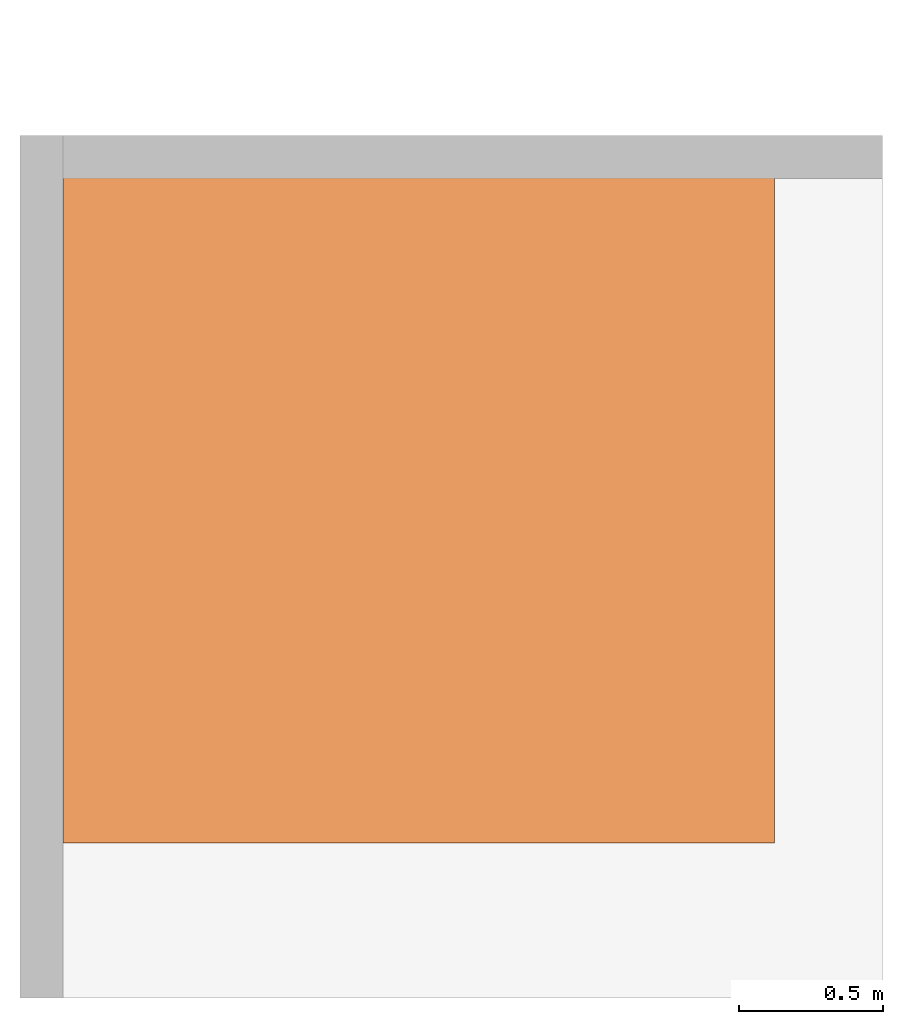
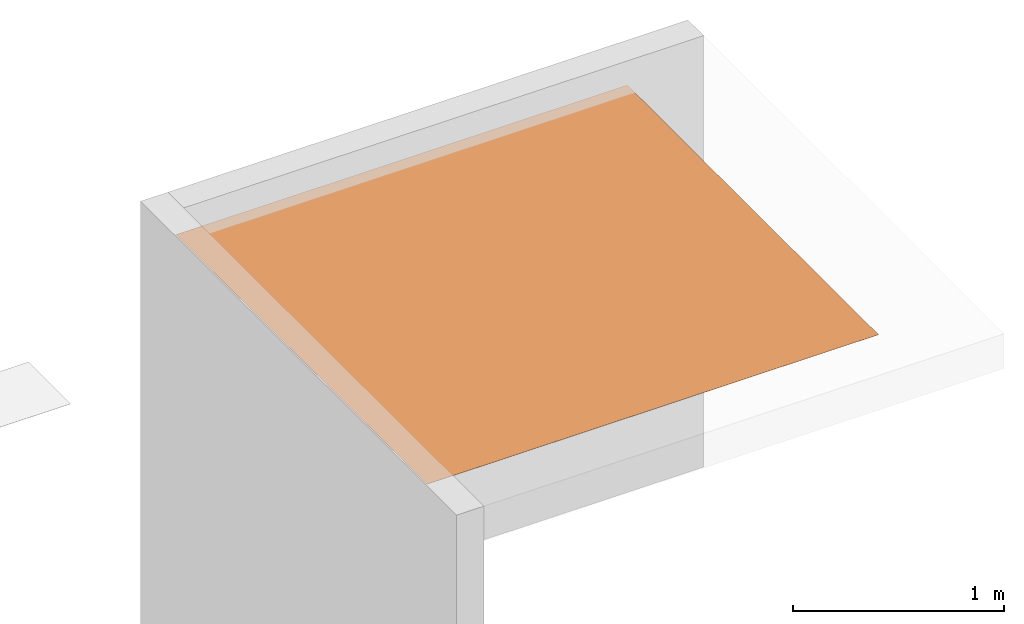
# One storey, part 3 of 3: 1 proxy.
"""IFC2X3 building model written with IfcOpenShell, lengths in metres."""

from ifc_helpers import new_model, entity, si_unit, converted_unit, derived_unit, direction, frame, frame_2d, origin, place, context, subcontext, project, spatial, rectangle, extrude, source, transform, mapped, material, type_object, type_shapes, element, save


model = new_model("IFC2X3")

# Units and contexts
model_context = context("Model", 3, precision=1e-05, world=origin(), true_north=direction((6.123031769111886e-17, 1.0)))
body_context = subcontext(model_context, "Body", "Model", "MODEL_VIEW")
ifc_project = project(units=[si_unit("LENGTHUNIT", "METRE"), si_unit("AREAUNIT", "SQUARE_METRE"), si_unit("VOLUMEUNIT", "CUBIC_METRE"), converted_unit("PLANEANGLEUNIT", "DEGREE", entity("IfcRatioMeasure", 0.017453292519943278), si_unit("PLANEANGLEUNIT", "RADIAN"), dimensions=[0, 0, 0, 0, 0, 0, 0]), si_unit("MASSUNIT", "GRAM", prefix="KILO"), derived_unit("MASSDENSITYUNIT", [(si_unit("MASSUNIT", "GRAM", prefix="KILO"), 1), (si_unit("LENGTHUNIT", "METRE"), -3)]), derived_unit("IONCONCENTRATIONUNIT", [(si_unit("MASSUNIT", "GRAM", prefix="KILO"), 1), (si_unit("LENGTHUNIT", "METRE"), -3)]), derived_unit("MOMENTOFINERTIAUNIT", [(si_unit("LENGTHUNIT", "METRE"), 4)]), si_unit("TIMEUNIT", "SECOND"), si_unit("FREQUENCYUNIT", "HERTZ"), si_unit("THERMODYNAMICTEMPERATUREUNIT", "DEGREE_CELSIUS"), derived_unit("THERMALTRANSMITTANCEUNIT", [(si_unit("MASSUNIT", "GRAM", prefix="KILO"), 1), (si_unit("THERMODYNAMICTEMPERATUREUNIT", "KELVIN"), -1), (si_unit("TIMEUNIT", "SECOND"), -3)]), derived_unit("THERMALCONDUCTANCEUNIT", [(si_unit("MASSUNIT", "GRAM", prefix="KILO"), 1), (si_unit("THERMODYNAMICTEMPERATUREUNIT", "KELVIN"), -1), (si_unit("TIMEUNIT", "SECOND"), -3), (si_unit("LENGTHUNIT", "METRE"), 1)]), derived_unit("VOLUMETRICFLOWRATEUNIT", [(si_unit("LENGTHUNIT", "METRE"), 3), (si_unit("TIMEUNIT", "SECOND"), -1)]), derived_unit("MASSFLOWRATEUNIT", [(si_unit("MASSUNIT", "GRAM", prefix="KILO"), 1), (si_unit("TIMEUNIT", "SECOND"), -1)]), derived_unit("ROTATIONALFREQUENCYUNIT", [(si_unit("TIMEUNIT", "SECOND"), -1)]), si_unit("ELECTRICCURRENTUNIT", "AMPERE"), si_unit("ELECTRICVOLTAGEUNIT", "VOLT"), si_unit("POWERUNIT", "WATT"), si_unit("FORCEUNIT", "NEWTON", prefix="KILO"), si_unit("ILLUMINANCEUNIT", "LUX"), si_unit("LUMINOUSFLUXUNIT", "LUMEN"), si_unit("LUMINOUSINTENSITYUNIT", "CANDELA"), derived_unit("USERDEFINED", [(si_unit("MASSUNIT", "GRAM", prefix="KILO"), -1), (si_unit("LENGTHUNIT", "METRE"), -2), (si_unit("TIMEUNIT", "SECOND"), 3), (si_unit("LUMINOUSFLUXUNIT", "LUMEN"), 1)]), derived_unit("USERDEFINED", [(si_unit("MASSUNIT", "GRAM", prefix="KILO"), 1), (si_unit("TIMEUNIT", "SECOND"), -3), (si_unit("LENGTHUNIT", "METRE"), 3), (si_unit("ELECTRICCURRENTUNIT", "AMPERE"), -2)]), derived_unit("SOUNDPOWERUNIT", [(si_unit("MASSUNIT", "GRAM", prefix="KILO"), 1), (si_unit("TIMEUNIT", "SECOND"), -3), (si_unit("LENGTHUNIT", "METRE"), 2)]), derived_unit("SOUNDPRESSUREUNIT", [(si_unit("MASSUNIT", "GRAM", prefix="KILO"), 1), (si_unit("LENGTHUNIT", "METRE"), -1), (si_unit("TIMEUNIT", "SECOND"), -2)]), derived_unit("LINEARVELOCITYUNIT", [(si_unit("LENGTHUNIT", "METRE"), 1), (si_unit("TIMEUNIT", "SECOND"), -1)]), si_unit("PRESSUREUNIT", "PASCAL"), derived_unit("USERDEFINED", [(si_unit("MASSUNIT", "GRAM", prefix="KILO"), 1), (si_unit("LENGTHUNIT", "METRE"), -2), (si_unit("TIMEUNIT", "SECOND"), -2)]), derived_unit("LINEARFORCEUNIT", [(si_unit("MASSUNIT", "GRAM", prefix="KILO"), 1), (si_unit("TIMEUNIT", "SECOND"), -2)]), derived_unit("PLANARFORCEUNIT", [(si_unit("MASSUNIT", "GRAM", prefix="KILO"), 1), (si_unit("LENGTHUNIT", "METRE"), -1), (si_unit("TIMEUNIT", "SECOND"), -2)]), derived_unit("SPECIFICHEATCAPACITYUNIT", [(si_unit("THERMODYNAMICTEMPERATUREUNIT", "KELVIN"), -1), (si_unit("LENGTHUNIT", "METRE"), 2), (si_unit("TIMEUNIT", "SECOND"), -2)]), derived_unit("HEATINGVALUEUNIT", [(si_unit("LENGTHUNIT", "METRE"), 2), (si_unit("TIMEUNIT", "SECOND"), -2)]), derived_unit("VAPORPERMEABILITYUNIT", [(si_unit("LENGTHUNIT", "METRE"), -1), (si_unit("TIMEUNIT", "SECOND"), 1)]), derived_unit("DYNAMICVISCOSITYUNIT", [(si_unit("MASSUNIT", "GRAM", prefix="KILO"), 1), (si_unit("TIMEUNIT", "SECOND"), -1), (si_unit("LENGTHUNIT", "METRE"), -1)]), derived_unit("THERMALEXPANSIONCOEFFICIENTUNIT", [(si_unit("THERMODYNAMICTEMPERATUREUNIT", "KELVIN"), -1)]), derived_unit("MODULUSOFELASTICITYUNIT", [(si_unit("MASSUNIT", "GRAM", prefix="KILO"), 1), (si_unit("LENGTHUNIT", "METRE"), -1), (si_unit("TIMEUNIT", "SECOND"), -2)]), derived_unit("ISOTHERMALMOISTURECAPACITYUNIT", [(si_unit("LENGTHUNIT", "METRE"), 3), (si_unit("MASSUNIT", "GRAM", prefix="KILO"), -1)]), derived_unit("MOISTUREDIFFUSIVITYUNIT", [(si_unit("TIMEUNIT", "SECOND"), -1), (si_unit("LENGTHUNIT", "METRE"), 2)])], contexts=[model_context])

# Site, building, storey
site_placement = place(None, origin())
site = spatial("IfcSite", under=ifc_project, at=site_placement, Name="Default", CompositionType="ELEMENT")
building_placement = place(site_placement, origin())
building = spatial("IfcBuilding", under=site, at=building_placement, CompositionType="ELEMENT")
storey_placement = place(building_placement, frame((0.0, 0.0, -0.0025237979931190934)))
storey = spatial("IfcBuildingStorey", under=building, at=storey_placement, Name="ARQ Térreo", CompositionType="ELEMENT", Elevation=-0.0025237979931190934)

# Proxy
ifc_material = material(Name="#Viapoxi Coat")
building_element_proxy_type = type_object("IfcBuildingElementProxyType", Name="IMPER:IMPER", PredefinedType="NOTDEFINED", material=ifc_material)
shared_shape = source(origin(), body_context, "Body", "SweptSolid", [
    extrude(rectangle(XDim=2.384999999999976, YDim=2.4749999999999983, at=frame_2d((-1.1102230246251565e-16, 0.0), x_axis=(1.0, 0.0))), frame((0.8855295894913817, -1.1216299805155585, 2.2964505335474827), z_axis=(0.0, 0.0, 1.0), x_axis=(0.0, -1.0, 0.0)), (0.0, 0.0, 1.0), 0.001025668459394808),
])
type_shapes(building_element_proxy_type, [shared_shape])
proxy_placement = place(storey_placement, frame((0.0, 0.0, 0.0025237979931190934)))
element("IfcBuildingElementProxy", 1, at=proxy_placement, inside=storey, type_object=building_element_proxy_type, material=ifc_material, Name="IMPER:IMPER:IMPER : IMPER:IMPER", ObjectType="IMPER:IMPER:IMPER : IMPER:IMPER", context=body_context, shape_type="MappedRepresentation", body=[
    mapped(shared_shape, transform((0.0, 0.0, 0.0), scale=1.0)),
])

save(model, "model.ifc")
